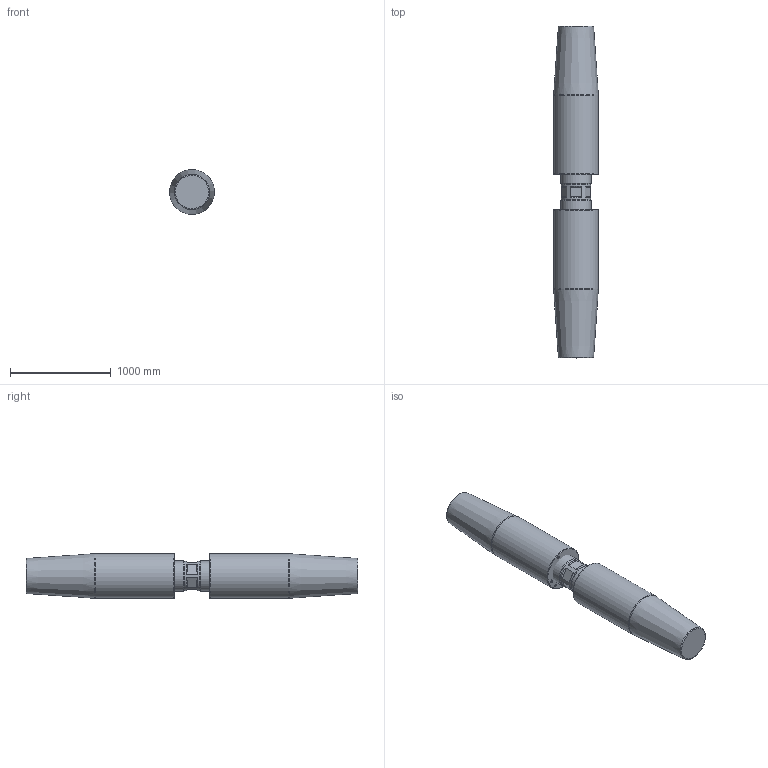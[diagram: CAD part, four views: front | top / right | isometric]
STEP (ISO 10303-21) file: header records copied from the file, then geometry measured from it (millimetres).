
FILE_DESCRIPTION(/* description */ (''),/* implementation_level */ '2;1');
FILE_NAME(/* name */ 'D:\Clienti\Redaelli (inventor)\CYA\STEP\Arrangement\CYA152 52 061 2.stp',/* time_stamp */ '2021-05-09T10:52:07+02:00',/* author */ ('fabri'),/* organization */ (''),/* preprocessor_version */ 'ST-DEVELOPER v16.13',/* originating_system */ 'Autodesk Inventor 2018',/* authorisation */ '');
FILE_SCHEMA (('AUTOMOTIVE_DESIGN { 1 0 10303 214 3 1 1 }'));
Length unit declared in the file: millimetre
Products named in the file (4): CYA012-54-062-0; TBF012-12-012-1; TBF012-13-012-0; TBF012-13-012-0_1
Assembly tree (3 placements, depth 2):
  CYA012-54-062-0
    TBF012-12-012-1
    TBF012-13-012-0
    TBF012-13-012-0_1
Bounding box: 444.71 x 3297 x 444.71 mm (x, y, z)
Volume: 513890274.1 mm3; surface area: 5902620.6 mm2
Topology: 3 solids, 3 shells, 502 faces, 1350 edges, 894 vertices
Faces by surface type: bspline 231, plane 228, cylinder 25, cone 14, torus 4
Full cylindrical faces by diameter (mm): 17.294 x2, 23.752 x6, 292.5 x1, 300 x2, 445 x2
Entity records: 17146 total; most frequent: CARTESIAN_POINT 6189, ORIENTED_EDGE 2622, DIRECTION 1435, EDGE_CURVE 1311, VERTEX_POINT 886, LINE 799, VECTOR 799, EDGE_LOOP 573
